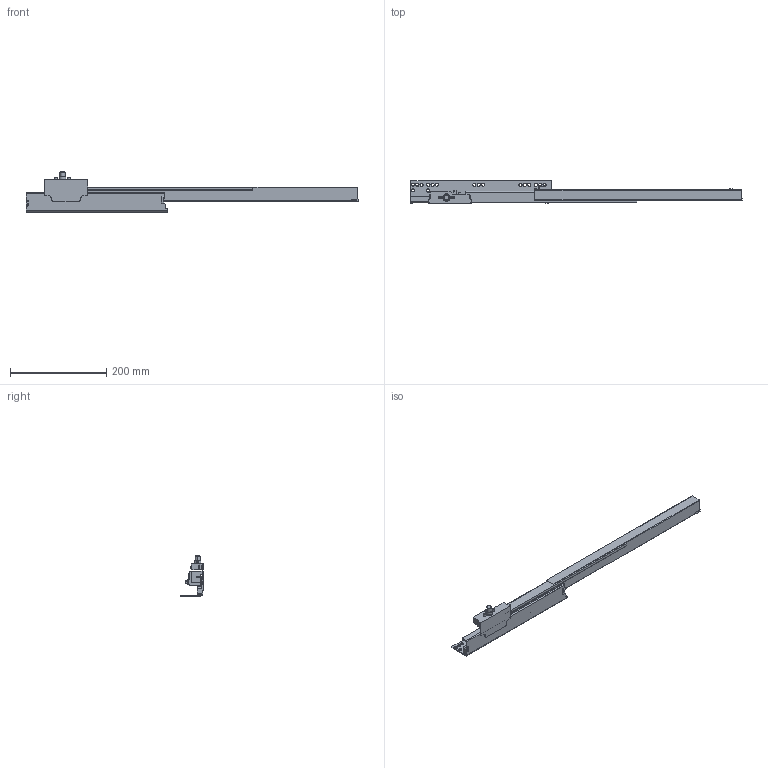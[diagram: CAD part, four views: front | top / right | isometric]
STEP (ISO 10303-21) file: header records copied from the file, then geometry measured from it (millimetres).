
FILE_DESCRIPTION (( 'STEP AP203' ), '1' );
FILE_NAME ('HT404504H-R(´ò¿ª).STEP', '2022-05-24T07:02:51', ( 'Users' ), ( 'Microsoft' ), 'SwSTEP 2.0', 'SolidWorks 2018', '' );
FILE_SCHEMA (( 'CONFIG_CONTROL_DESIGN' ));
Length unit declared in the file: millimetre
Products named in the file (1): HT404504H-R(湖羲)
Bounding box: 690.8 x 47.5 x 83.3 mm (x, y, z)
Volume: 453843.3 mm3; surface area: 128326.2 mm2
Topology: 2 solids, 2 shells, 454 faces, 1164 edges, 724 vertices
Faces by surface type: cylinder 176, plane 150, torus 62, cone 40, bspline 22, sphere 4
Entity records: 15226 total; most frequent: CARTESIAN_POINT 3900, DIRECTION 2442, ORIENTED_EDGE 2320, EDGE_CURVE 1160, AXIS2_PLACEMENT_3D 914, VERTEX_POINT 724, VECTOR 614, LINE 614
